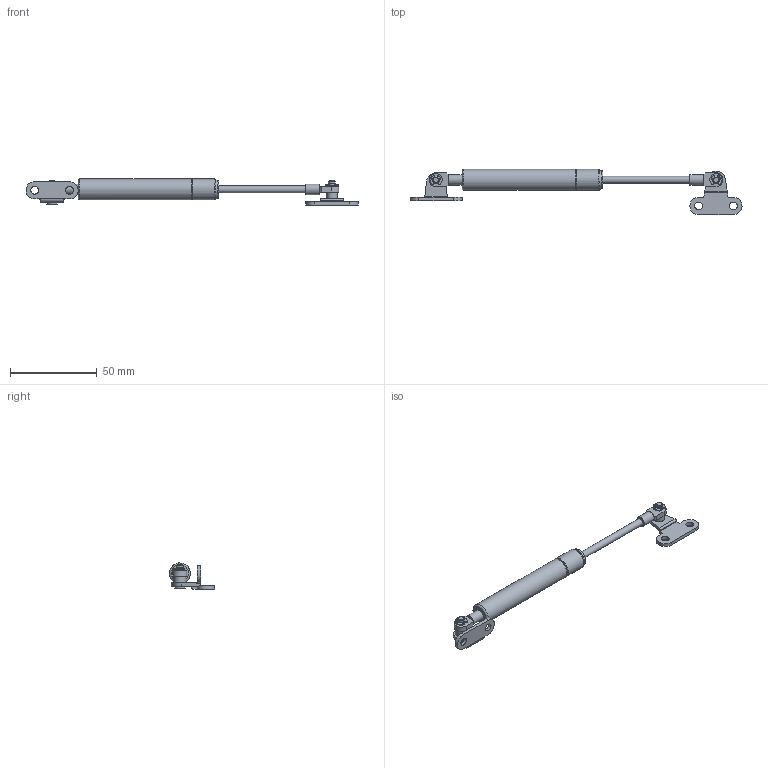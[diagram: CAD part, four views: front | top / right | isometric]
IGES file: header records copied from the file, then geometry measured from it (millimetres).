
Global section: file name: DR_SB-160; native system: Autodesk Inventor 2015; preprocessor: unknown; author: Administrator; date: 20170918.132708; units: millimetre
Bounding box: 190.99 x 26 x 15 mm (x, y, z)
Volume: 11965.9 mm3; surface area: 8776.1 mm2
Topology: 9 solids, 9 shells, 175 faces, 448 edges, 307 vertices
Faces by surface type: bspline 175
